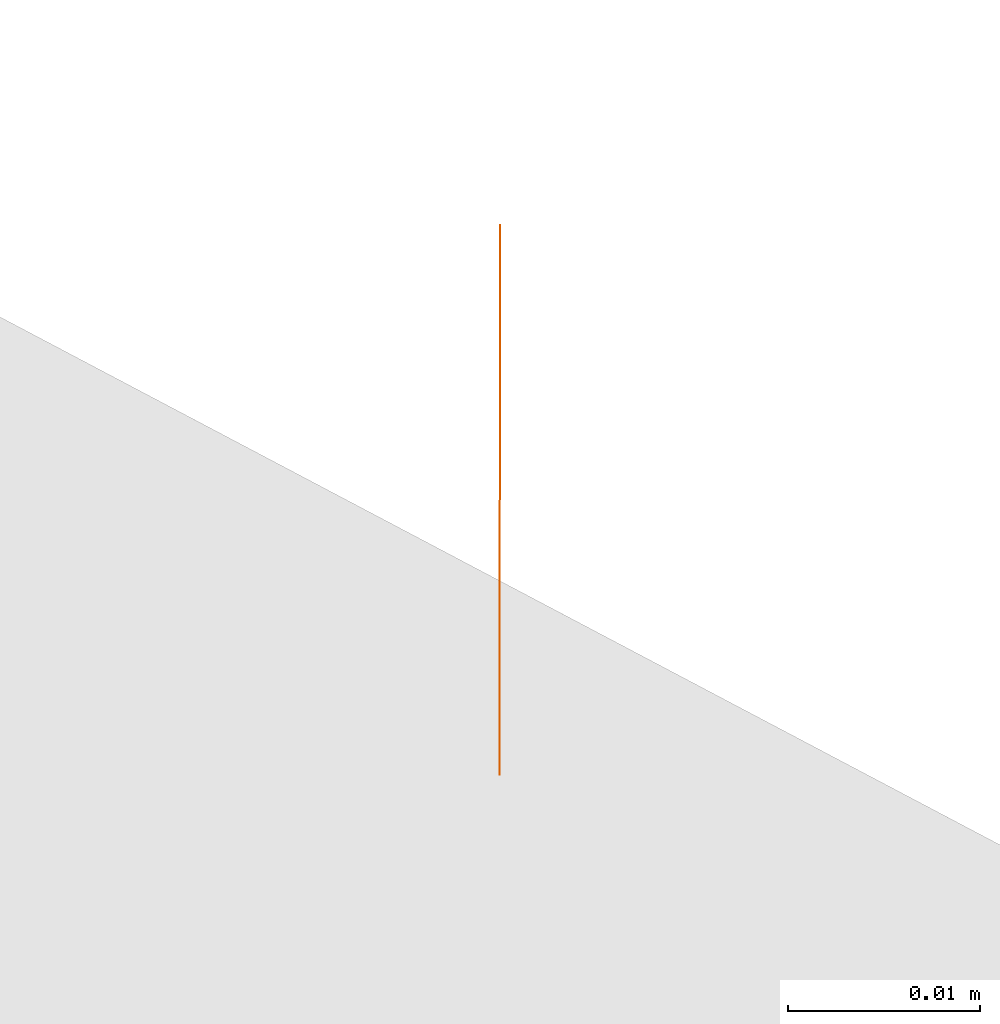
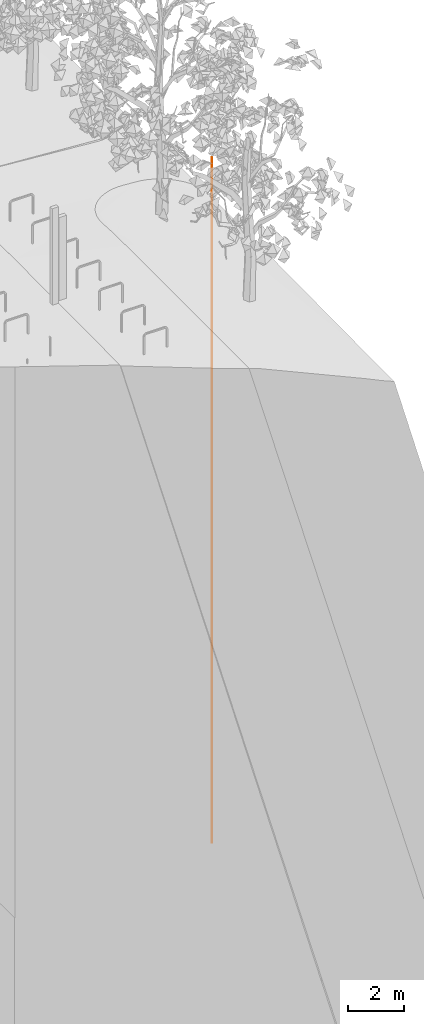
# One storey, part 44 of 69: 1 proxy.
"""IFC2X3 building model written with IfcOpenShell, lengths in millimetres."""

from ifc_helpers import new_model, entity, si_unit, converted_unit, derived_unit, money_unit, point, direction, frame, frame_2d, origin_with_axes, place, context, subcontext, project, spatial, polyline, circle_curve, parameter, trimmed, segment, composite_curve, outline, extrude, material, type_object, element, save


model = new_model("IFC2X3")

# Units and contexts
model_context = context("Model", 3, precision=0.01, world=origin_with_axes(), true_north=direction((0.0, 1.0)))
body_context = subcontext(model_context, "Body", "Model", "MODEL_VIEW")
ifc_project = project(units=[si_unit("LENGTHUNIT", "METRE", prefix="MILLI"), si_unit("AREAUNIT", "SQUARE_METRE"), si_unit("VOLUMEUNIT", "CUBIC_METRE"), converted_unit("PLANEANGLEUNIT", "DEGREE", entity("IfcPlaneAngleMeasure", 0.0174532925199), si_unit("PLANEANGLEUNIT", "RADIAN"), dimensions=[0, 0, 0, 0, 0, 0, 0]), si_unit("SOLIDANGLEUNIT", "STERADIAN"), money_unit("EUR"), converted_unit("TIMEUNIT", "Year", entity("IfcTimeMeasure", 31556926.0), si_unit("TIMEUNIT", "SECOND"), dimensions=[0, 0, 1, 0, 0, 0, 0]), si_unit("MASSUNIT", "GRAM", prefix="KILO"), si_unit("THERMODYNAMICTEMPERATUREUNIT", "DEGREE_CELSIUS"), si_unit("LUMINOUSINTENSITYUNIT", "LUMEN"), si_unit("ENERGYUNIT", "JOULE", prefix="MEGA"), derived_unit("THERMALCONDUCTANCEUNIT", [(si_unit("POWERUNIT", "WATT"), 1), (si_unit("LENGTHUNIT", "METRE"), -1), (si_unit("THERMODYNAMICTEMPERATUREUNIT", "KELVIN"), -1)]), derived_unit("SPECIFICHEATCAPACITYUNIT", [(si_unit("ENERGYUNIT", "JOULE"), 1), (si_unit("MASSUNIT", "GRAM", prefix="KILO"), -1), (si_unit("THERMODYNAMICTEMPERATUREUNIT", "KELVIN"), -1)]), derived_unit("MASSDENSITYUNIT", [(si_unit("MASSUNIT", "GRAM", prefix="KILO"), 1), (si_unit("VOLUMEUNIT", "CUBIC_METRE"), -1)])], contexts=[model_context])

# Site, building, storey
site_placement = place(None, origin_with_axes())
site = spatial("IfcSite", under=ifc_project, at=site_placement, Name="Puškini 31, Narva", CompositionType="ELEMENT")
building_placement = place(site_placement, origin_with_axes())
building = spatial("IfcBuilding", under=site, at=building_placement, Name="Narva Riigigümnaasium", CompositionType="ELEMENT")
storey_placement = place(building_placement, origin_with_axes())
storey = spatial("IfcBuildingStorey", under=building, at=storey_placement, Name="1.korrus 0.00", CompositionType="ELEMENT", Elevation=0.0)

# Proxy
ifc_material = material(Name="Sillutiskivi")
building_element_proxy_type = type_object("IfcBuildingElementProxyType", Name="Sillutiskivi 30000", PredefinedType="NOTDEFINED")
proxy_placement = place(storey_placement, frame((62964.6538531, 144978.378252, 1157.88154799), z_axis=(0.0, 0.0, 1.0), x_axis=(1.0, 0.0, 0.0)))
element("IfcBuildingElementProxy", 1, at=proxy_placement, inside=storey, type_object=building_element_proxy_type, material=ifc_material, Name="Kegliiklustee", context=body_context, shape_type="SweptSolid", body=[
    extrude(outline(composite_curve([segment(trimmed(circle_curve(frame_2d((-1999.93005643, 16.726315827), x_axis=(0.999965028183, -0.00836315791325)), 2000.00000006), [point((0.0, 0.0)), parameter(0.0)], [point((0.0346319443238, 28.6109912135)), parameter(0.819652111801)], True, "CARTESIAN"), True, "CONTINUOUS"), segment(polyline([(0.0346319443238, 28.6109912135), (0.0, 0.0)]), True, "CONTINUOUS")], self_intersect=False)), frame((0.0, 0.0, -30000.0), z_axis=(0.0, 0.0, 1.0), x_axis=(1.0, 0.0, 0.0)), (0.0, 0.0, 1.0), 30000.0),
])

save(model, "model.ifc")
